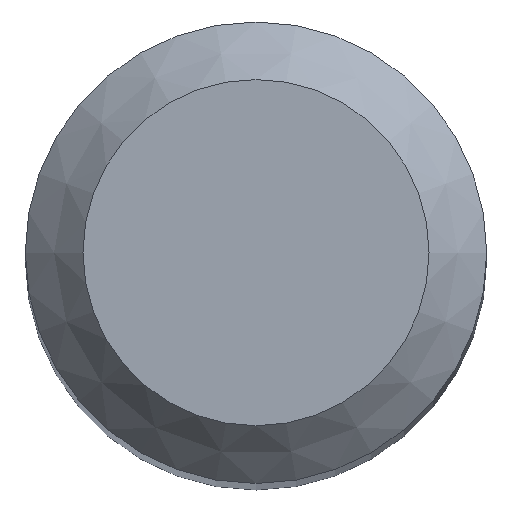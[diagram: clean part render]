
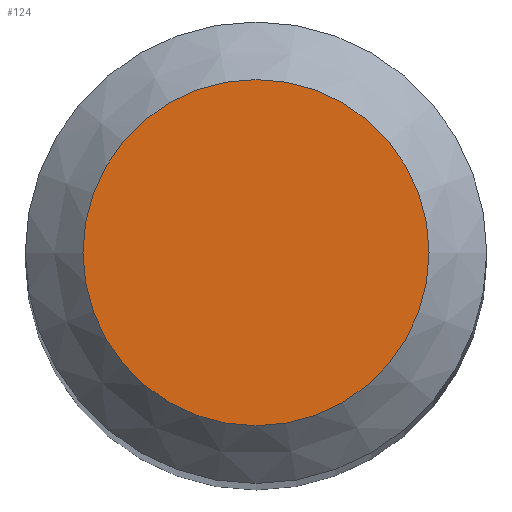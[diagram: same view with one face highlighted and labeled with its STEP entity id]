
A CAD part, top view. The second image highlights one B-rep face of the part: STEP entity #124.
In plain terms, the highlighted planar face has unit normal (0, 0, 1).
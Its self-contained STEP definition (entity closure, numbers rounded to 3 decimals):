
#108=CARTESIAN_POINT('',(1.5,0.0,45.0));
#109=DIRECTION('',(0.0,0.0,1.0));
#110=DIRECTION('',(1.0,0.0,0.0));
#111=AXIS2_PLACEMENT_3D('',#108,#109,#110);
#112=PLANE('',#111);
#113=CARTESIAN_POINT('',(-1.5,0.0,45.0));
#114=VERTEX_POINT('',#113);
#115=CARTESIAN_POINT('',(0.0,0.0,45.0));
#116=DIRECTION('',(0.0,0.0,-1.0));
#117=DIRECTION('',(-1.0,0.0,0.0));
#118=AXIS2_PLACEMENT_3D('',#115,#116,#117);
#119=CIRCLE('',#118,1.5);
#120=EDGE_CURVE('',#114,#114,#119,.T.);
#121=ORIENTED_EDGE('',*,*,#120,.F.);
#122=EDGE_LOOP('',(#121));
#123=FACE_OUTER_BOUND('',#122,.T.);
#124=ADVANCED_FACE('',(#123),#112,.T.);
